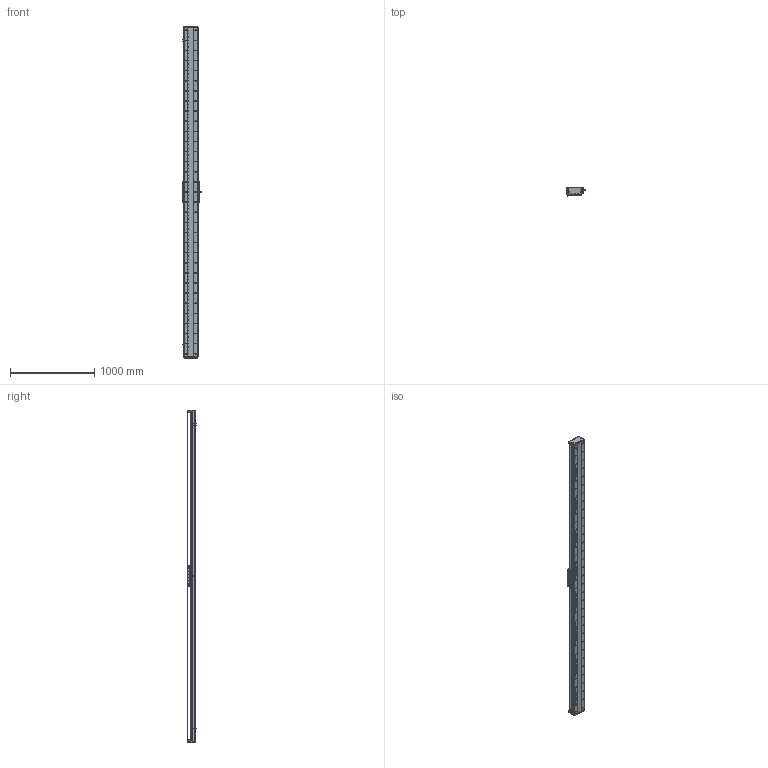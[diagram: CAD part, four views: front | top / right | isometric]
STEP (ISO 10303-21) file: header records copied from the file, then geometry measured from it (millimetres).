
FILE_DESCRIPTION (( 'STEP AP203' ), '1' );
FILE_NAME ('DA-C165-C3-T3600-C010-0.2 直线电机.STEP', '2023-06-13T09:05:28', ( '微软用户' ), ( '微软中国' ), 'SwSTEP 2.0', 'SolidWorks 2019', '' );
FILE_SCHEMA (( 'CONFIG_CONTROL_DESIGN' ));
Length unit declared in the file: millimetre
Products named in the file (18): 复件 XD-U-02L 磁栅尺^DA-C165-C3-T-C010-0.2-N 直线电机_T; 复件 CU165钢带组件^DA-C165-C3-T-C010-0.2-N 直线电机; 葩璃 CKM03-W075-C1C2-TP-3.0^DA-C165-C3-T-C010-0.2-N 眻盄萇儂; IU-CU165-L 菁釱絳寢; 葩璃 PM-T45^DA-C165-C3-T-C010-0.2-N 眻盄萇儂; 复件 六角薄螺母 M3^DA-C165-C3-T-C010-0.2-N 直线电机_GB_FASTENER_NUT_STNAB M3-C; 复件 DA165-GDLK-00 钢带拉块^复件 CU165钢带组件_DA-C165-C3-T-C010-0.2-N 直线电机; 复件 DA165-GD-1860-002-00 钢带盖板^复件 CU165钢带组件_DA-C165-C3-T-C010-0.2-N 直线电机; 珨极趙賑雄怢啣C3-wf; 复件 DA95-HXJ-00 缓冲橡胶^DA-C165-C3-T-C010-0.2-N 直线电机; 复件 CU165 底座^IU-CU165-L 底座导轨_L3900; 复件 DMA-010-0.2 读数头^DA-C165-C3-T-C010-0.2-N 直线电机; 复件 DA165-GD-DG-H-00 端盖^复件 CU165钢带组件_DA-C165-C3-T-C010-0.2-N 直线电机; DA-C165-C3-T3600-C010-0.2 眻盄萇儂; 复件 DA165-GYP-00 光电感应片^DA-C165-C3-T-C010-0.2-N 直线电机; 葩璃 DA95-GT-T-00^IU-CU165-L 菁釱絳寢_T; 葩璃 CKM01-W075-TRL^DA-C165-C3-T-C010-0.2-N 眻盄萇儂; 复件 DA165-GDYK-00 钢带压块^复件 CU165钢带组件_DA-C165-C3-T-C010-0.2-N 直线电机
Assembly tree (35 placements, depth 3):
  DA-C165-C3-T3600-C010-0.2 眻盄萇儂
    IU-CU165-L 菁釱絳寢
      复件 CU165 底座^IU-CU165-L 底座导轨_L3900
      葩璃 DA95-GT-T-00^IU-CU165-L 菁釱絳寢_T  x4
    复件 XD-U-02L 磁栅尺^DA-C165-C3-T-C010-0.2-N 直线电机_T
    葩璃 PM-T45^DA-C165-C3-T-C010-0.2-N 眻盄萇儂  x3
    葩璃 CKM01-W075-TRL^DA-C165-C3-T-C010-0.2-N 眻盄萇儂
    复件 CU165钢带组件^DA-C165-C3-T-C010-0.2-N 直线电机
      复件 DA165-GD-DG-H-00 端盖^复件 CU165钢带组件_DA-C165-C3-T-C010-0.2-N 直线电机  x2
      复件 DA165-GDYK-00 钢带压块^复件 CU165钢带组件_DA-C165-C3-T-C010-0.2-N 直线电机  x2
      复件 DA165-GD-1860-002-00 钢带盖板^复件 CU165钢带组件_DA-C165-C3-T-C010-0.2-N 直线电机
      复件 DA165-GDLK-00 钢带拉块^复件 CU165钢带组件_DA-C165-C3-T-C010-0.2-N 直线电机  x2
    复件 DA95-HXJ-00 缓冲橡胶^DA-C165-C3-T-C010-0.2-N 直线电机  x4
    复件 DA165-GYP-00 光电感应片^DA-C165-C3-T-C010-0.2-N 直线电机
    复件 DMA-010-0.2 读数头^DA-C165-C3-T-C010-0.2-N 直线电机
    葩璃 CKM03-W075-C1C2-TP-3.0^DA-C165-C3-T-C010-0.2-N 眻盄萇儂
    复件 六角薄螺母 M3^DA-C165-C3-T-C010-0.2-N 直线电机_GB_FASTENER_NUT_STNAB M3-C  x8
    珨极趙賑雄怢啣C3-wf
Bounding box: 233 x 111.45 x 3940 mm (x, y, z)
Volume: 21399353.9 mm3; surface area: 6503572.9 mm2
Topology: 72 solids, 122 shells, 5022 faces, 14975 edges, 9564 vertices
Faces by surface type: cylinder 3136, plane 1260, cone 576, torus 46, sphere 4
Entity records: 177173 total; most frequent: CARTESIAN_POINT 50973, ORIENTED_EDGE 26702, DIRECTION 25281, EDGE_CURVE 13351, AXIS2_PLACEMENT_3D 9772, VERTEX_POINT 8752, EDGE_LOOP 6089, LINE 5737
